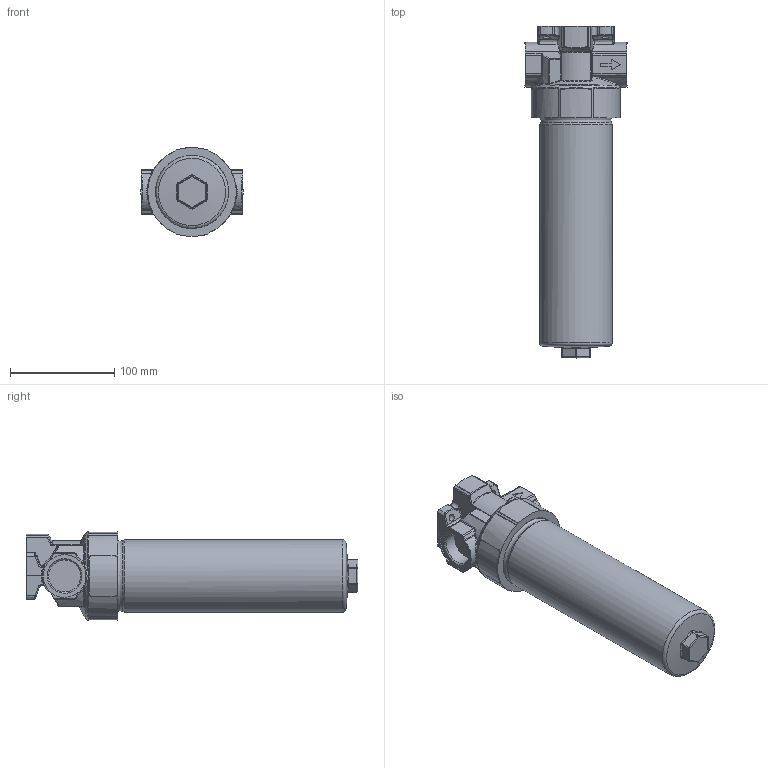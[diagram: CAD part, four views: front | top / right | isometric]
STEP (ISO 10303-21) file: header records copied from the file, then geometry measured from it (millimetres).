
FILE_DESCRIPTION((''),'2;1');
FILE_NAME('U:\Users\t.schleuter\D_152-186.stp','2013-05-08T15:52:31', ('User'),('SDRC'),'I-DEAS Master Series 9','UNIX','Yes');
FILE_SCHEMA(('AUTOMOTIVE_DESIGN { 1 0 10303 214 1 1 1 1 }'));
Length unit declared in the file: millimetre
Products named in the file (1): Druckfilter_D_152-186
Bounding box: 98 x 318.5 x 84.95 mm (x, y, z)
Volume: 1231094.9 mm3; surface area: 92444.6 mm2
Topology: 1 solids, 3 shells, 399 faces, 997 edges, 613 vertices
Faces by surface type: bspline 399
Entity records: 16947 total; most frequent: CARTESIAN_POINT 11495, ORIENTED_EDGE 1886, EDGE_CURVE 943, B_SPLINE_CURVE_WITH_KNOTS 599, VERTEX_POINT 556, EDGE_LOOP 413, FACE_OUTER_BOUND 399, ADVANCED_FACE 399
